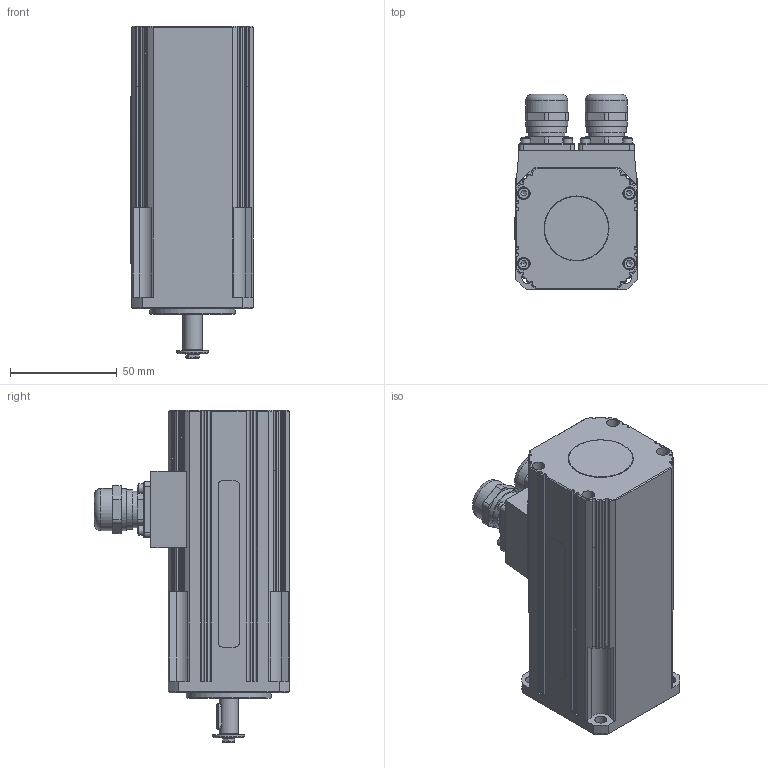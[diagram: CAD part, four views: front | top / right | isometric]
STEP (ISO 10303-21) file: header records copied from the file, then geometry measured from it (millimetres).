
FILE_DESCRIPTION(/* description */ (''),/* implementation_level */ '2;1');
FILE_NAME(/* name */ '\\mavilormotors.local\DFS\SERVOT\OT\ESTUDIS MOTORS\ALFRED\FP0105 + qr + cables\FP0105+QR+CABLES_solid.stp',/* time_stamp */ '2018-09-18T10:52:14+02:00',/* author */ ('adomenech'),/* organization */ (''),/* preprocessor_version */ 'ST-DEVELOPER v16.1',/* originating_system */ 'Autodesk Inventor 2016',/* authorisation */ '');
FILE_SCHEMA (('AUTOMOTIVE_DESIGN { 1 0 10303 214 3 1 1 }'));
Length unit declared in the file: inch
Products named in the file (1): FP0105+QR+CABLES_solid2
Bounding box: 57.5 x 91.5 x 155.75 mm (x, y, z)
Volume: 425245.5 mm3; surface area: 59744.6 mm2
Topology: 1 solids, 44 shells, 848 faces, 2116 edges, 1387 vertices
Faces by surface type: plane 416, cylinder 275, cone 122, torus 35
Full cylindrical faces by diameter (mm): 1 x2, 1.5 x1, 2.013 x8, 2.459 x12, 2.5 x8, 2.7 x8, 3 x8, 3.4 x8, 4.5 x8, 4.6 x1, 5.5 x16, 6 x12, 8.6 x1, 9 x1, 12 x1, 15 x1, 17 x2, 17.8 x1, 18 x1, 18.5 x4, 19.75 x4, 20 x2, 21 x2, 22 x1, 24 x2, 25 x1, 28.3 x1, 30 x1, 30.5 x1, 32.1 x1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
Entity records: 24179 total; most frequent: CARTESIAN_POINT 4873, DIRECTION 3893, ORIENTED_EDGE 3496, EDGE_CURVE 1748, AXIS2_PLACEMENT_3D 1549, VERTEX_POINT 1241, EDGE_LOOP 1155, FACE_OUTER_BOUND 848
